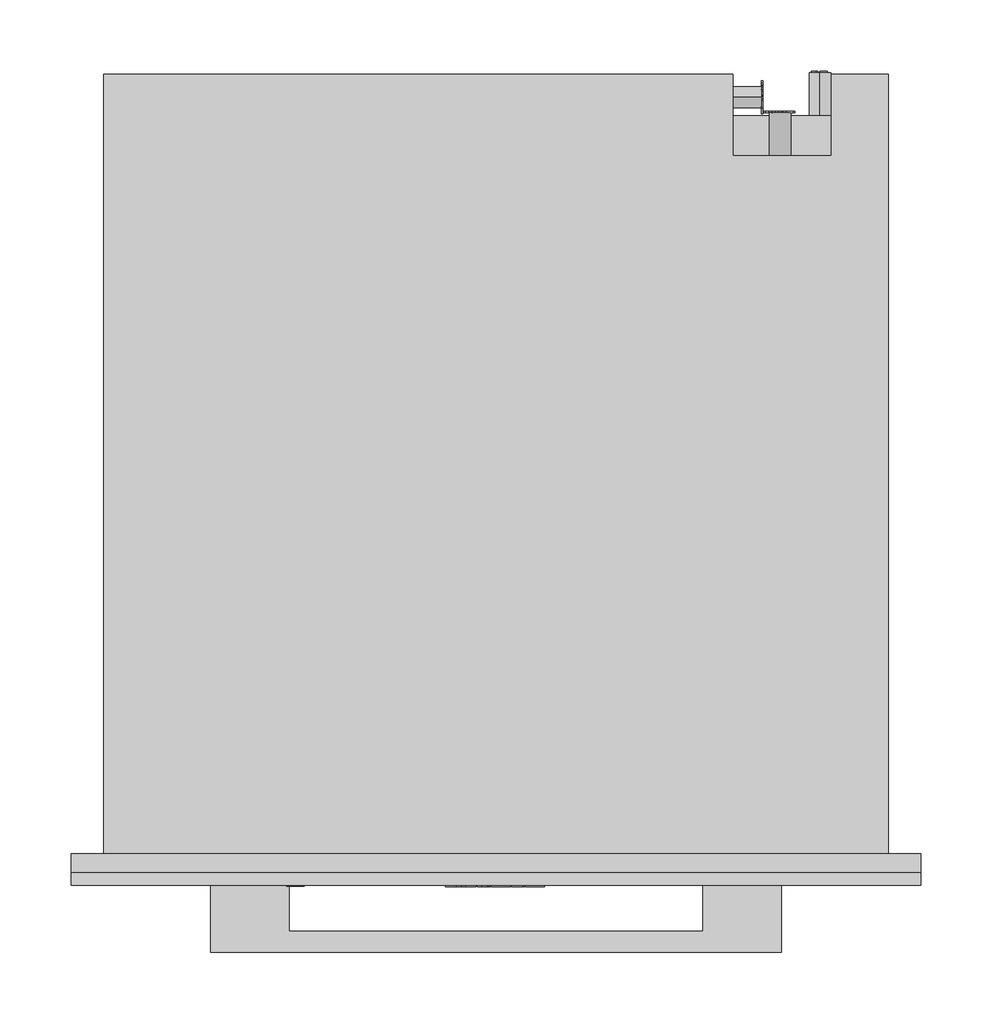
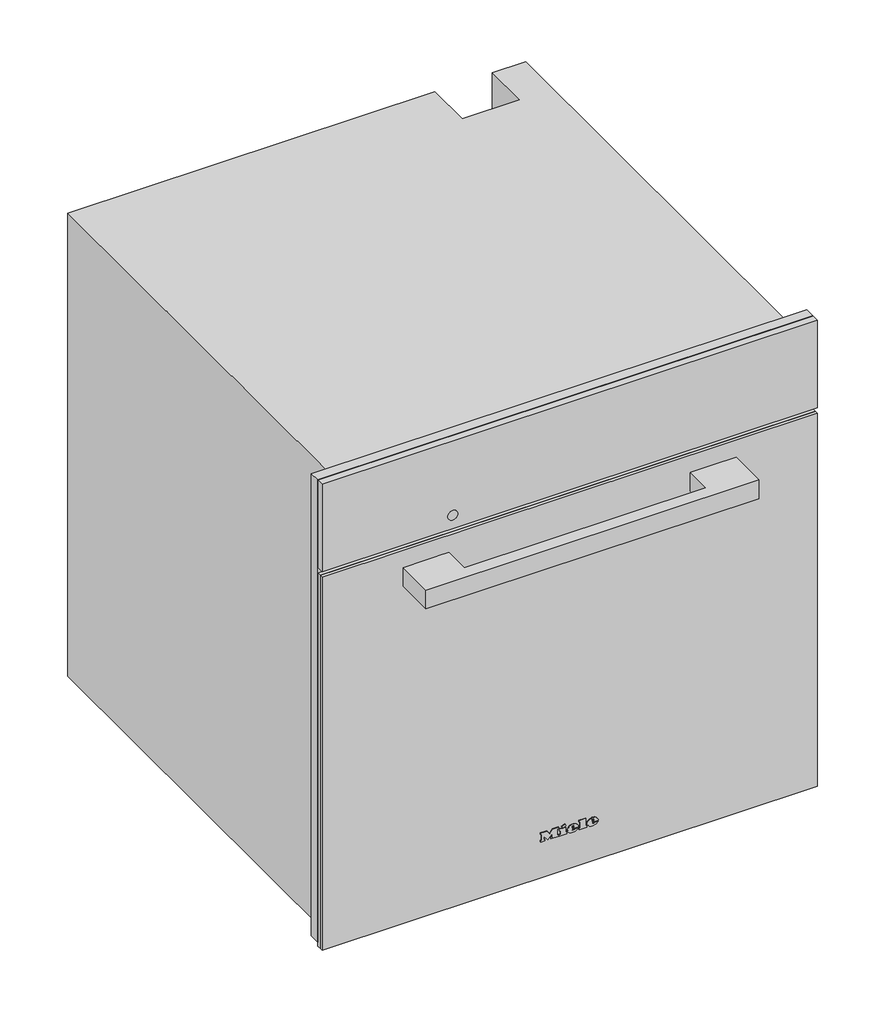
# Not in any storey: 1 proxy.
"""IFC4 building model written with IfcOpenShell, lengths in millimetres."""

from ifc_helpers import new_model, si_unit, origin, place, context, project, spatial, transform, mapped, element, save
from components import specialty_equipment_ab99b57f

model = new_model("IFC4")

# Units and contexts
model_context = context("Model", 3, world=origin())
ifc_project = project(units=[si_unit("LENGTHUNIT", "METRE", prefix="MILLI")], contexts=[model_context])

# Site, building
site = spatial("IfcSite", under=ifc_project)
building = spatial("IfcBuilding", under=site)

# Proxy
placement = place(None, origin())
specialty_equipment_shape = specialty_equipment_ab99b57f(model_context)
element("IfcBuildingElementProxy", 1, Name="12094840_F_DGC7665HCPro_BRWS : 23766519_F_12094840_DGC7665HCPro_BRWS", ObjectType="12094840_F_DGC7665HCPro_BRWS : 23766519_F_12094840_DGC7665HCPro_BRWS", at=placement, inside=building, context=model_context, shape_type="MappedRepresentation", body=[
    mapped(specialty_equipment_shape, transform((0.0, 0.0, 0.0), x_axis=(1.0, 0.0, 0.0), y_axis=(0.0, 1.0, 0.0), z_axis=(0.0, 0.0, 1.0))),
])

save(model, "model.ifc")
